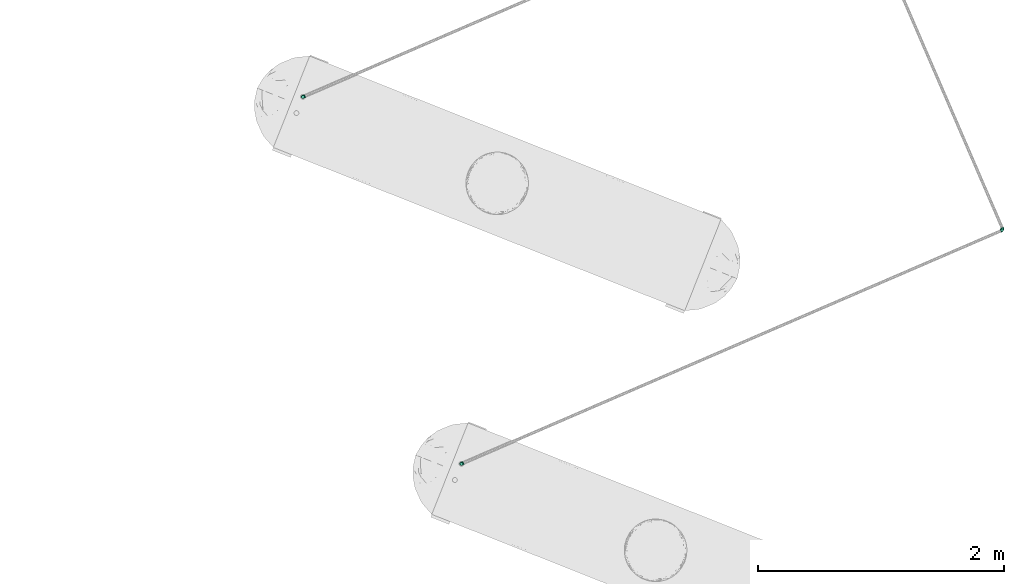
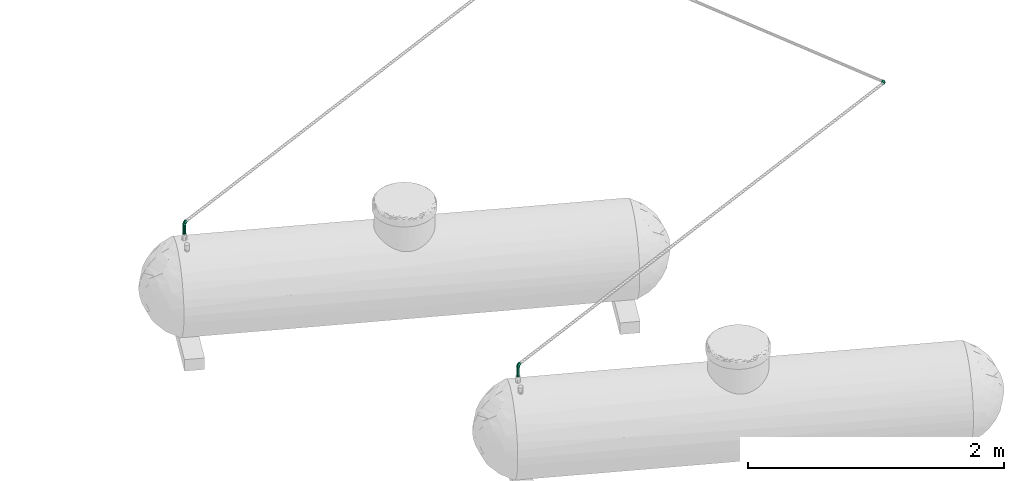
# One storey, part 18 of 26: 3 pipe fittings, 2 pipe segments.
"""IFC4 building model written with IfcOpenShell, lengths in metres."""

from ifc_helpers import new_model, entity, si_unit, converted_unit, derived_unit, direction, frame, origin, place, context, subcontext, project, spatial, arc, indexed_curve, outline, extrude, polygons, source, transform, mapped, material, type_object, type_shapes, element, save


model = new_model("IFC4")

# Units and contexts
model_context = context("Model", 3, precision=1e-05, world=origin(), true_north=direction((6.12323399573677e-17, 1.0)))
body_context = subcontext(model_context, "Body", "Model", "MODEL_VIEW")
ifc_project = project(units=[si_unit("LENGTHUNIT", "METRE"), si_unit("AREAUNIT", "SQUARE_METRE"), si_unit("VOLUMEUNIT", "CUBIC_METRE"), si_unit("PRESSUREUNIT", "PASCAL"), derived_unit("VOLUMETRICFLOWRATEUNIT", [(si_unit("LENGTHUNIT", "METRE", prefix="DECI"), 3), (si_unit("TIMEUNIT", "SECOND"), -1)]), converted_unit("PLANEANGLEUNIT", "DEGREE", entity("IfcPlaneAngleMeasure", 0.0174532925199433), si_unit("PLANEANGLEUNIT", "RADIAN"), dimensions=[0, 0, 0, 0, 0, 0, 0])], contexts=[model_context])

# Site, building, storey
site_placement = place(None, origin())
site = spatial("IfcSite", under=ifc_project, at=site_placement, Name="Default", CompositionType="ELEMENT")
building_placement = place(site_placement, frame((24.575451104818, -55.896759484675, 317.15), z_axis=(0.0, 0.0, 1.0), x_axis=(-0.396377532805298, 0.918087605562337, 0.0)))
building = spatial("IfcBuilding", under=site, at=building_placement, CompositionType="ELEMENT")
storey_placement = place(building_placement, origin())
storey = spatial("IfcBuildingStorey", under=building, at=storey_placement, Name="Nivel 1", CompositionType="ELEMENT", Elevation=0.0)

# Pipe segments
ifc_material_1 = material(Name="Cobre", Category="Undefined")
pipe_segment_type = type_object("IfcPipeSegmentType", Name="Pipe Types:GAS", PredefinedType="NOTDEFINED")
pipe_segment_1_placement = place(storey_placement, origin())
element("IfcPipeSegment", 1, at=pipe_segment_1_placement, inside=storey, type_object=pipe_segment_type, material=ifc_material_1, Name="Pipe Types:GAS", ObjectType="Pipe Types:GAS", PredefinedType="NOTDEFINED", context=body_context, shape_type="SweptSolid", body=[
    extrude(outline(indexed_curve([(0.0125000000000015, -8.66293703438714e-15), (0.00883883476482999, 0.00883883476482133), (0.0, 0.0124999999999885), (-0.00883883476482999, 0.00883883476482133), (-0.0125000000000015, -8.66293703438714e-15), (-0.00883883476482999, -0.00883883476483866), (0.0, -0.0125000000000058), (0.00883883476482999, -0.00883883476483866)], segments=[arc(1, 2, 3), arc(3, 4, 5), arc(5, 6, 7), arc(7, 8, 1)], self_intersect=False)), frame((-36.5944088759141, 55.2732646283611, -0.549340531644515), z_axis=(0.0, 0.0, 1.0), x_axis=(-1.0, 0.0, 0.0)), (0.0, 0.0, 1.0), 0.0887030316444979),
])
pipe_segment_2_placement = place(storey_placement, origin())
element("IfcPipeSegment", 2, at=pipe_segment_2_placement, inside=storey, type_object=pipe_segment_type, material=ifc_material_1, Name="Pipe Types:GAS", ObjectType="Pipe Types:GAS", PredefinedType="NOTDEFINED", context=body_context, shape_type="SweptSolid", body=[
    extrude(outline(indexed_curve([(0.0125000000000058, 0.0), (0.00883883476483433, 0.00883883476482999), (4.33146851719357e-15, 0.0124999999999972), (-0.00883883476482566, 0.00883883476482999), (-0.0124999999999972, 0.0), (-0.00883883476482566, -0.00883883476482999), (4.33146851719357e-15, -0.0124999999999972), (0.00883883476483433, -0.00883883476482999)], segments=[arc(1, 2, 3), arc(3, 4, 5), arc(5, 6, 7), arc(7, 8, 1)], self_intersect=False)), frame((-33.3433688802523, 55.2732646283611, -0.549340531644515), z_axis=(0.0, 0.0, 1.0), x_axis=(-1.0, 0.0, 0.0)), (0.0, 0.0, 1.0), 0.0887030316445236),
])

# Pipe fittings
ifc_material_2 = material(Name="<Unnamed>")
pipe_fitting_type = type_object("IfcPipeFittingType", Name="M_Codo - Genérico:Norma", PredefinedType="NOTDEFINED", material=ifc_material_2)
shared_shape = source(origin(), body_context, "Body", "Tessellation", [
    polygons([(-0.0206374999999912, -0.0142875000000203, -1.91398743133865e-15), (-0.0206374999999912, -0.0138006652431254, 0.00369787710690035), (-0.0206374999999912, -0.0123733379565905, 0.00714374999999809), (-0.0206374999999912, -0.0101027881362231, 0.0101027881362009), (-0.0206374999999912, -0.00714375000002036, 0.0123733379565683), (-0.0206374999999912, -0.00369787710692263, 0.0138006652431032), (-0.0206374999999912, -2.03756678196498e-14, 0.0142874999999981), (-0.0206374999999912, 0.00369787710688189, 0.0138006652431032), (-0.0206374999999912, 0.00714374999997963, 0.0123733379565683), (-0.0206374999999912, 0.0101027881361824, 0.010102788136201), (-0.0206374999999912, 0.0123733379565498, 0.00714374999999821), (-0.0206374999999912, 0.0138006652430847, 0.00369787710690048), (-0.0206374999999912, 0.0142874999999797, -1.86782324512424e-15), (-0.0206374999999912, 0.0138006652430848, -0.00369787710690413), (-0.0206374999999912, 0.0123733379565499, -0.00714375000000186), (-0.0206374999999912, 0.0101027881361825, -0.0101027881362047), (-0.0206374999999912, 0.00714374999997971, -0.012373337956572), (-0.0206374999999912, 0.00369787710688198, -0.0138006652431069), (-0.0206374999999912, -2.02868388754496e-14, -0.0142875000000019), (-0.0206374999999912, -0.00369787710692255, -0.0138006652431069), (-0.0206374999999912, -0.00714375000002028, -0.0123733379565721), (-0.0206374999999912, -0.0101027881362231, -0.0101027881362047), (-0.0206374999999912, -0.0123733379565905, -0.0071437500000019), (-0.0206374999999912, -0.0138006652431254, -0.00369787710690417), (0.0142875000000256, 0.0206374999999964, -1.90764250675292e-15), (0.0138006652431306, 0.0206374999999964, -0.00369787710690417), (0.0123733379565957, 0.0206374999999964, -0.0071437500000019), (0.0101027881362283, 0.0206374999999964, -0.0101027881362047), (0.00714375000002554, 0.0206374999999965, -0.0123733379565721), (0.00369787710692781, 0.0206374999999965, -0.0138006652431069), (2.5548896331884e-14, 0.0206374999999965, -0.0142875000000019), (-0.00369787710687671, 0.0206374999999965, -0.0138006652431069), (-0.00714374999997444, 0.0206374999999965, -0.012373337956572), (-0.0101027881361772, 0.0206374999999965, -0.0101027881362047), (-0.0123733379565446, 0.0206374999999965, -0.00714375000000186), (-0.0138006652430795, 0.0206374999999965, -0.00369787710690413), (-0.0142874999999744, 0.0206374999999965, -1.78818472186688e-15), (-0.0138006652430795, 0.0206374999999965, 0.00369787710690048), (-0.0123733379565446, 0.0206374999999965, 0.00714374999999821), (-0.0101027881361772, 0.0206374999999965, 0.010102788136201), (-0.00714374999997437, 0.0206374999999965, 0.0123733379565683), (-0.00369787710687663, 0.0206374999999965, 0.0138006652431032), (2.56377252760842e-14, 0.0206374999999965, 0.0142874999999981), (0.00369787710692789, 0.0206374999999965, 0.0138006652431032), (0.00714375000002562, 0.0206374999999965, 0.0123733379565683), (0.0101027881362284, 0.0206374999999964, 0.0101027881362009), (0.0123733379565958, 0.0206374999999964, 0.00714374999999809), (0.0138006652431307, 0.0206374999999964, 0.00369787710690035), (-0.0161473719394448, 0.01614737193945, -1.77549487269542e-15), (-0.00317499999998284, -0.00960843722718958, -1.91398743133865e-15), (0.00960843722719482, 0.00317499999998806, -1.91398743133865e-15), (-0.0138157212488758, -0.0124596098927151, -1.91398743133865e-15), (0.0124596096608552, 0.0138157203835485, -1.91398743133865e-15), (0.000176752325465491, -0.000818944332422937, 0.0108840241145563), (-0.00773273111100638, 0.00773273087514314, 0.0140866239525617), (0.00793781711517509, 0.00822334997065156, 0.00966985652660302), (0.00135010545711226, 0.00899688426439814, 0.0136434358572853), (-0.00888619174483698, -0.0104628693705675, 0.00671916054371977), (-0.0129621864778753, 0.0129621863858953, 0.0104127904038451), (-0.00929774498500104, -0.00143592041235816, 0.0136628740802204), (-0.00532051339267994, 0.0141803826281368, 0.0137117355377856), (-0.0141803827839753, 0.00532051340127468, 0.0137117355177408), (0.0112946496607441, 0.0130720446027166, 0.00747085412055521), (0.00577425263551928, 0.013206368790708, 0.0125656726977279), (-0.0132433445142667, -0.00888564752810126, 0.0103991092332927), (-0.0140702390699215, 0.0159826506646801, 0.00675856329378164), (-0.0143000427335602, -0.0130452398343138, 0.00426440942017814), (0.0095400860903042, 0.00509019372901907, 0.00519492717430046), (0.00321671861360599, -0.00321671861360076, -1.91398743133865e-15), (-0.00515392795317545, -0.00641805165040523, 0.00965090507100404), (0.00222330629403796, -0.00400373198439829, 0.00598159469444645), (-0.00854677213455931, 0.0161311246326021, 0.0120130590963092), (-0.00142828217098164, 0.0152665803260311, 0.0142707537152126), (-0.0152665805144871, 0.00142828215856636, 0.014270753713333), (-0.0161311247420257, 0.00854677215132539, 0.0120130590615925), (0.0131091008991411, 0.0148489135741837, 0.00437255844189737), (0.00899826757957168, 0.0147314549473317, 0.0105988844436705), (-0.0147956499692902, -0.00588207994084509, 0.0127141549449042), (0.00233466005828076, 0.0151927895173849, 0.0139751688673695), (-0.0150725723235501, -0.0114859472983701, 0.00780933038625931), (-0.0153188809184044, -0.00233800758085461, 0.0139805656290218), (0.011034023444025, 0.00849536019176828, -1.91398743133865e-15), (-0.0113819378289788, 0.0168959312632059, 0.00951940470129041), (-0.0168959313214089, 0.0113819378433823, 0.00951940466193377), (-0.0170650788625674, 0.0134736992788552, 0.00667503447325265), (-0.0162112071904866, 0.0154334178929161, 0.00367932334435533), (-0.00849536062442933, -0.0110340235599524, -1.91398743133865e-15), (-0.00647811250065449, -0.0108815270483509, 0.00323735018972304), (-0.00100845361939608, -0.00772137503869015, 0.00350069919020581), (-0.00886885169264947, 0.0115328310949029, 0.0130758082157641), (-0.00347635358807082, 0.010181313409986, 0.0142772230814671), (-0.00486327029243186, 0.00380489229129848, 0.0140791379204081), (-0.0101813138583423, 0.00347635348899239, 0.0142772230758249), (0.00574400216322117, 0.00158139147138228, 0.00789717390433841), (0.00646368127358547, -0.00034497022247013, 0.00426218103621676), (-0.01133973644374, 0.00817371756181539, 0.0133509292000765), (-0.0119462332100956, 0.0108177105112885, 0.01214592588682), (-0.0104397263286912, 0.0136564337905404, 0.0116442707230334), (0.00426857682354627, 0.00406076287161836, 0.0108628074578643), (0.000366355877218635, 0.00349920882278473, 0.0127379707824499), (-0.0039339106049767, -0.000686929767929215, 0.0127486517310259), (-0.00794317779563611, -0.00460237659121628, 0.0120890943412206), (0.0117560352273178, 0.00970031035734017, 0.00452322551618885), (0.0107595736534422, 0.00586367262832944, 0.00252945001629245), (0.0086810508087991, 0.00209392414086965, 0.00257710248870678), (0.00641257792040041, -2.08593068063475e-05, -1.91398743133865e-15), (-0.00237913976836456, -0.00707429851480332, 0.00683135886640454), (-0.000140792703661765, -0.00388038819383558, 0.00871805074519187), (0.00277830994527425, -0.000643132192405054, 0.00911324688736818), (-0.0054208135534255, 0.0206374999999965, 0.0130870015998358), (-0.00418568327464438, 0.0173312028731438, 0.0137571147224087), (-0.0206374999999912, 0.00542081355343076, 0.0130870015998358), (-0.0173312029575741, 0.00418568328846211, 0.0137571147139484), (0.00987593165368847, 0.00850514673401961, 0.00743684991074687), (0.00793102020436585, 0.00512352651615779, 0.00794965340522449), (-0.0088104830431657, -0.00877836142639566, 0.00903634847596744), (0.000239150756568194, 0.0122734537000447, 0.0141669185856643), (-0.0143001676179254, 0.017568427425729, 0.00439068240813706), (-0.0103785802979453, -0.0119235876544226, 0.00467362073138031), (2.08593068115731e-05, -0.00641257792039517, -1.91398743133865e-15), (0.00279281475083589, -0.00483309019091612, 0.00299181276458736), (-0.00194016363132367, 0.00726127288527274, 0.0140925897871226), (0.00572154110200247, 0.0085814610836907, 0.0115951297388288), (-0.003650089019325, -0.00355714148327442, 0.0111567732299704), (-0.00193934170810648, 0.00193934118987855, -0.0130547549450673), (-0.0105392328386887, 0.0105392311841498, -0.0127956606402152), (0.00743074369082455, 0.00658692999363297, -0.00940990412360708), (-0.00658692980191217, -0.00743074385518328, -0.00940990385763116), (-0.010680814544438, 0.00217692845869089, -0.0142835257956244), (-0.00217692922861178, 0.0106808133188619, -0.0142835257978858), (-0.0147948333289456, 0.0147948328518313, -0.00714135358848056), (0.00568780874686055, 0.0124319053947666, -0.0124904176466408), (0.0111958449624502, 0.0123663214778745, -0.00734851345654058), (-0.0124319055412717, -0.0056878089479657, -0.0124904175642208), (-0.0123663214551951, -0.0111958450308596, -0.00734851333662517), (-0.0148108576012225, 0.00522571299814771, -0.0136681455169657), (-0.00522571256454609, 0.014810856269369, -0.0136681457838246), (-0.0115374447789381, 0.0162108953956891, -0.00966984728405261), (-0.0162108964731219, 0.0115374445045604, -0.00966984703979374), (0.00898405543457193, 0.0144717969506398, -0.0105644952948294), (0.0023205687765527, 0.0148125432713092, -0.0139585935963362), (0.00171503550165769, 0.00789920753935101, -0.0133501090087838), (0.0130906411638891, 0.0146814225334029, -0.00433964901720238), (0.0107681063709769, 0.00675874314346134, -0.00406143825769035), (0.00684414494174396, -4.76310165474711e-06, -0.00394110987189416), (0.00017428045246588, -0.00614059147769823, -0.00527756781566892), (-0.01447179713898, -0.00898405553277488, -0.0105644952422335), (-0.0148125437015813, -0.00232056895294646, -0.0139585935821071), (-0.00789920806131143, -0.00171503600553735, -0.0133501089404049), (-0.0146814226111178, -0.0130906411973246, -0.00433964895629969), (-0.00675874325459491, -0.0107681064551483, -0.00406143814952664), (-0.00852331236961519, 0.0163139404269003, -0.0119868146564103), (-0.0163139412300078, 0.00852331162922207, -0.0119868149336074), (0.0030859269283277, 0.00336815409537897, -0.0113287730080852), (-0.00145328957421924, -0.00264997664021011, -0.0106409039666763), (0.00445745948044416, 3.67635219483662e-05, -0.00801127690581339), (-0.0160399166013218, 0.00140287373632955, -0.0142615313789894), (-0.00140287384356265, 0.0160399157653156, -0.0142615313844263), (-0.00941182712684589, 0.00664976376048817, -0.0140296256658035), (-0.00508542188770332, 0.00508542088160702, -0.014222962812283), (-0.00699597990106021, 0.0105280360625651, -0.0138112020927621), (-0.0178443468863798, 0.0133830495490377, -0.00621711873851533), (-0.0161315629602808, 0.0154961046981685, -0.00369654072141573), (-0.0133830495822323, 0.0178443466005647, -0.00621711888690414), (-0.014368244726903, 0.0177468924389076, -0.00393847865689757), (-0.00678207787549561, -0.00466398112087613, -0.0116935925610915), (-0.00405092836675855, -0.00160148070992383, -0.01239521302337), (0.00586952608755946, 0.0171604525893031, -0.0129214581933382), (0.0115473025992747, 0.0171053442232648, -0.00814200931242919), (-0.0171604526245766, -0.00586952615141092, -0.0129214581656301), (-0.0171053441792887, -0.0115473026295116, -0.00814200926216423), (-0.0135396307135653, 0.0135396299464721, -0.00958025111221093), (-0.0110613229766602, 0.0133918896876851, -0.0113873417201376), (-0.013526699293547, 0.0108398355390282, -0.0114607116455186), (0.0120035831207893, 0.0108741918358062, -0.00486842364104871), (0.00964941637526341, 0.00734879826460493, -0.00703328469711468), (0.00737425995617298, 0.0033840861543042, -0.00733418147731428), (0.00917153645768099, 0.00296427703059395, -0.0027679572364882), (0.00367169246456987, -0.00389665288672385, -0.00330356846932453), (-0.00170307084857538, -0.00837123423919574, -0.00283309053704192), (-0.00377971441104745, -0.00866361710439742, -0.00554655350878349), (-0.00788333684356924, -0.0100707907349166, -0.00670951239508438), (0.00320463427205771, -0.00299787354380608, -0.00606891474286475), (-0.000344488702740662, -0.00456946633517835, -0.00816734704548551), (-0.0102215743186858, -0.0123932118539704, -0.00286852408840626), (-0.0129951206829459, 0.00787480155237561, -0.0130742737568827), (0.00446733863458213, 0.00775313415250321, -0.0121106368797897), (-0.00510169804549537, 0.00845793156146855, -0.0142593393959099)], [[[18, 19, 20, 21, 22, 23, 24, 1, 2, 3, 4, 5, 6, 7, 8, 112, 9, 10, 11, 12, 13, 14, 15, 16, 17]], [[29, 30, 31, 32, 33, 34, 35, 36, 37, 38, 39, 40, 41, 110, 42, 43, 44, 45, 46, 47, 48, 25, 26, 27, 28]], [[43, 73, 79]], [[119, 87, 88]], [[52, 67, 2]], [[76, 47, 63]], [[80, 4, 3]], [[2, 67, 3]], [[70, 107, 108]], [[4, 80, 65]], [[65, 78, 5]], [[2, 1, 52]], [[62, 93, 96]], [[9, 112, 8, 113]], [[66, 83, 39]], [[81, 7, 6]], [[99, 54, 109]], [[124, 102, 70]], [[10, 84, 11]], [[41, 40, 72]], [[84, 59, 85]], [[9, 75, 10]], [[61, 72, 90]], [[86, 13, 12]], [[91, 55, 92]], [[5, 4, 65]], [[77, 114, 63]], [[45, 44, 64]], [[64, 44, 79]], [[113, 75, 9]], [[43, 42, 73]], [[103, 76, 63]], [[25, 48, 53]], [[42, 111, 73]], [[63, 46, 77]], [[71, 89, 121]], [[63, 47, 46]], [[62, 74, 93]], [[54, 99, 100]], [[64, 123, 77]], [[85, 86, 12]], [[61, 91, 73]], [[86, 118, 49]], [[57, 100, 123]], [[59, 83, 66]], [[8, 7, 74]], [[39, 83, 40]], [[5, 78, 6]], [[39, 38, 118]], [[49, 118, 37]], [[111, 42, 110, 41]], [[72, 111, 41]], [[65, 80, 116]], [[84, 85, 11]], [[45, 77, 46]], [[87, 50, 88]], [[47, 76, 48]], [[67, 119, 80]], [[109, 54, 108]], [[51, 104, 105]], [[115, 68, 114]], [[107, 88, 89]], [[101, 102, 124]], [[88, 107, 58]], [[94, 95, 68]], [[83, 72, 40]], [[61, 90, 55]], [[91, 61, 55]], [[43, 79, 44]], [[81, 74, 7]], [[60, 92, 93]], [[96, 55, 90]], [[75, 97, 84]], [[103, 104, 82]], [[53, 48, 76]], [[64, 77, 45]], [[77, 56, 114]], [[65, 116, 102]], [[81, 78, 60]], [[73, 117, 79]], [[64, 79, 57]], [[67, 80, 3]], [[80, 58, 116]], [[78, 81, 6]], [[74, 81, 60]], [[114, 103, 63]], [[82, 53, 76]], [[83, 59, 98]], [[75, 84, 10]], [[85, 59, 66]], [[86, 85, 66]], [[12, 11, 85]], [[118, 86, 66]], [[86, 49, 13]], [[67, 52, 87]], [[89, 88, 50]], [[119, 88, 58]], [[89, 50, 120]], [[89, 71, 107]], [[59, 97, 98]], [[97, 75, 96]], [[93, 55, 96]], [[91, 122, 117]], [[100, 101, 54]], [[122, 91, 92]], [[60, 93, 74]], [[92, 55, 93]], [[115, 99, 94]], [[95, 94, 71]], [[121, 95, 71]], [[95, 106, 105]], [[97, 96, 90]], [[75, 62, 96]], [[98, 90, 72]], [[97, 59, 84]], [[90, 98, 97]], [[83, 98, 72]], [[123, 99, 56]], [[99, 123, 100]], [[122, 100, 57]], [[101, 92, 60]], [[92, 101, 100]], [[101, 60, 102]], [[60, 78, 102]], [[65, 102, 78]], [[104, 103, 68]], [[82, 76, 103]], [[105, 68, 95]], [[82, 104, 51]], [[68, 105, 104]], [[108, 107, 71]], [[106, 95, 69]], [[106, 51, 105]], [[107, 70, 116]], [[109, 71, 94]], [[108, 54, 124]], [[71, 109, 108]], [[99, 109, 94]], [[111, 72, 61]], [[61, 73, 111]], [[113, 74, 62]], [[74, 113, 8]], [[113, 62, 75]], [[115, 114, 56]], [[103, 114, 68]], [[99, 115, 56]], [[68, 115, 94]], [[107, 116, 58]], [[102, 116, 70]], [[91, 117, 73]], [[57, 79, 117]], [[39, 118, 66]], [[37, 118, 38]], [[80, 119, 58]], [[87, 119, 67]], [[120, 121, 89]], [[121, 120, 69]], [[95, 121, 69]], [[100, 122, 92]], [[117, 122, 57]], [[77, 123, 56]], [[57, 123, 64]], [[108, 124, 70]], [[101, 124, 54]], [[166, 134, 149]], [[185, 52, 150]], [[129, 157, 136]], [[157, 19, 18]], [[163, 131, 162]], [[178, 51, 106]], [[162, 139, 15]], [[23, 171, 150]], [[16, 15, 139]], [[156, 183, 184]], [[129, 136, 159]], [[17, 16, 153]], [[52, 1, 24]], [[153, 16, 139]], [[148, 20, 19]], [[22, 171, 23]], [[135, 147, 128]], [[32, 137, 33]], [[21, 147, 22]], [[170, 21, 20]], [[147, 21, 170]], [[35, 34, 138]], [[30, 141, 31]], [[134, 148, 149]], [[13, 49, 163]], [[34, 33, 152]], [[36, 165, 37]], [[23, 150, 24]], [[159, 160, 129]], [[162, 15, 14]], [[152, 138, 34]], [[28, 140, 29]], [[32, 31, 158]], [[26, 25, 53]], [[32, 158, 137]], [[131, 164, 138]], [[142, 154, 125]], [[168, 141, 30]], [[134, 170, 148]], [[169, 28, 27]], [[142, 130, 141]], [[168, 140, 132]], [[136, 18, 17]], [[168, 30, 29]], [[169, 143, 133]], [[154, 142, 187]], [[133, 143, 175]], [[87, 151, 50]], [[175, 82, 144]], [[132, 140, 127]], [[36, 35, 164]], [[143, 27, 26]], [[130, 160, 188]], [[36, 164, 165]], [[173, 152, 126]], [[136, 186, 159]], [[174, 172, 173]], [[172, 139, 131]], [[153, 186, 136]], [[169, 140, 28]], [[140, 133, 176]], [[142, 141, 132]], [[158, 141, 130]], [[187, 127, 154]], [[142, 125, 160]], [[26, 53, 143]], [[143, 53, 82]], [[82, 51, 144]], [[144, 51, 178]], [[133, 175, 176]], [[185, 135, 151]], [[145, 106, 179]], [[156, 127, 177]], [[180, 179, 120]], [[155, 125, 154]], [[128, 147, 134]], [[171, 147, 135]], [[157, 148, 19]], [[129, 160, 149]], [[129, 149, 148]], [[167, 166, 149]], [[87, 185, 151]], [[52, 24, 150]], [[146, 180, 181]], [[151, 182, 181]], [[50, 151, 180]], [[33, 137, 152]], [[152, 137, 161]], [[139, 172, 174]], [[136, 17, 153]], [[176, 177, 127]], [[184, 128, 155]], [[154, 127, 156]], [[166, 128, 134]], [[145, 179, 183]], [[155, 154, 156]], [[136, 157, 18]], [[148, 157, 129]], [[141, 158, 31]], [[137, 158, 130]], [[161, 159, 126]], [[161, 188, 159]], [[142, 160, 130]], [[149, 160, 125]], [[152, 161, 126]], [[188, 137, 130]], [[14, 13, 163]], [[139, 162, 131]], [[14, 163, 162]], [[49, 37, 165]], [[138, 164, 35]], [[165, 131, 163]], [[131, 165, 164]], [[165, 163, 49]], [[167, 149, 125]], [[155, 128, 166]], [[125, 155, 167]], [[155, 166, 167]], [[140, 168, 29]], [[141, 168, 132]], [[143, 169, 27]], [[140, 169, 133]], [[148, 170, 20]], [[147, 170, 134]], [[147, 171, 22]], [[150, 171, 135]], [[131, 138, 172]], [[173, 172, 138]], [[152, 173, 138]], [[173, 126, 174]], [[186, 174, 126]], [[153, 139, 174]], [[82, 175, 143]], [[176, 175, 144]], [[144, 178, 177]], [[140, 176, 127]], [[144, 177, 176]], [[145, 156, 177]], [[178, 106, 145]], [[177, 178, 145]], [[50, 180, 120]], [[179, 106, 69, 120]], [[183, 179, 146]], [[146, 179, 180]], [[181, 180, 151]], [[182, 151, 135]], [[184, 181, 128]], [[135, 128, 182]], [[128, 181, 182]], [[184, 183, 146]], [[145, 183, 156]], [[184, 146, 181]], [[156, 184, 155]], [[52, 185, 87]], [[135, 185, 150]], [[174, 186, 153]], [[159, 186, 126]], [[142, 132, 187]], [[127, 187, 132]], [[159, 188, 160]], [[137, 188, 161]]], closed=True),
])
type_shapes(pipe_fitting_type, [shared_shape])
for number, where, z_axis, x_axis in (
    (3, (-36.5944088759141, 55.2732646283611, -0.440000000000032), (1.0, 0.0, 0.0), (0.0, 0.0, 1.0)),
    (4, (-36.5944088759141, 50.473264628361, -0.439999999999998), (0.0, 0.0, 1.0), (0.0, -1.0, 0.0)),
    (5, (-33.3433688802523, 55.2732646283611, -0.440000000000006), (1.0, 0.0, 0.0), (0.0, 0.0, 1.0)),
):
    element("IfcPipeFitting", number, at=place(storey_placement, frame(where, z_axis=z_axis, x_axis=x_axis)), inside=storey, type_object=pipe_fitting_type, material=ifc_material_2, Name="M_Codo - Genérico:Norma", ObjectType="M_Codo - Genérico:Norma", PredefinedType="NOTDEFINED", context=body_context, shape_type="MappedRepresentation", body=[
        mapped(shared_shape, transform((0.0, 0.0, 0.0), scale=1.0)),
    ])

save(model, "model.ifc")
